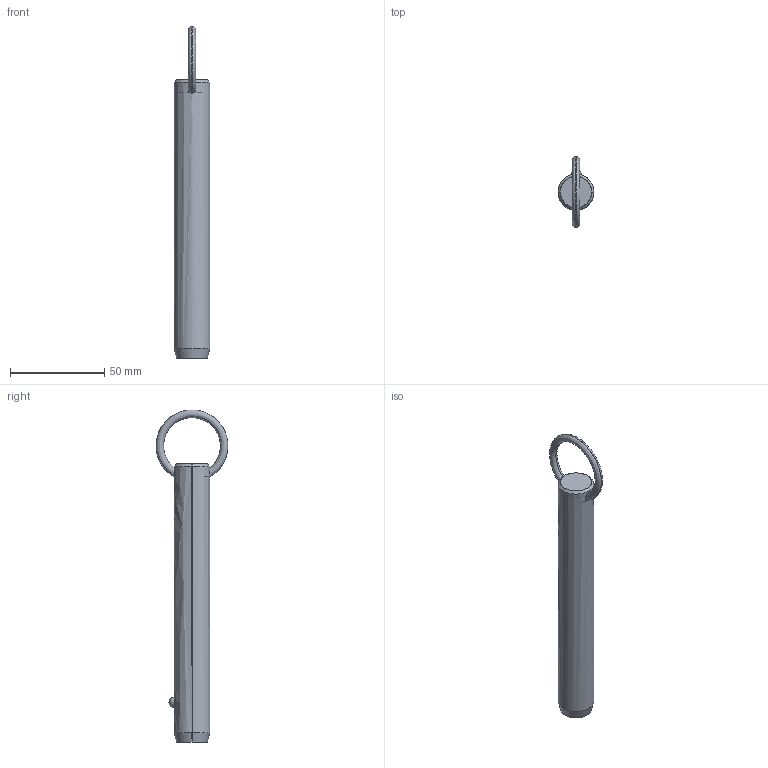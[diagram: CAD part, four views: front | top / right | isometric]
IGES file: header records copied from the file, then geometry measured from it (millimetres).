
Start section: SolidWorks IGES file using analytic representation for surfaces
Global section: file name: C:\Users\liam_\OneDrive\Documents\WORK\Work for WixRoyd\Job Files\J-00019 - Matt Davis CAD Checking\04. CAD Drawings\automotion20190605\P1250.2_v2\P1250.2_v2_20190729_IGES\P1250.075-450.igs; native system: SolidWorks 2017; preprocessor: SolidWorks 2017; author: liam_; date: 190729.235510; units: millimetre
Bounding box: 19 x 38.08 x 176.09 mm (x, y, z)
Surface area: 10337.1 mm2 (no closed solid volume)
Topology: 0 solids, 0 shells, 12 faces, 294 edges, 292 vertices
Faces by surface type: revolution 8, bspline 4
